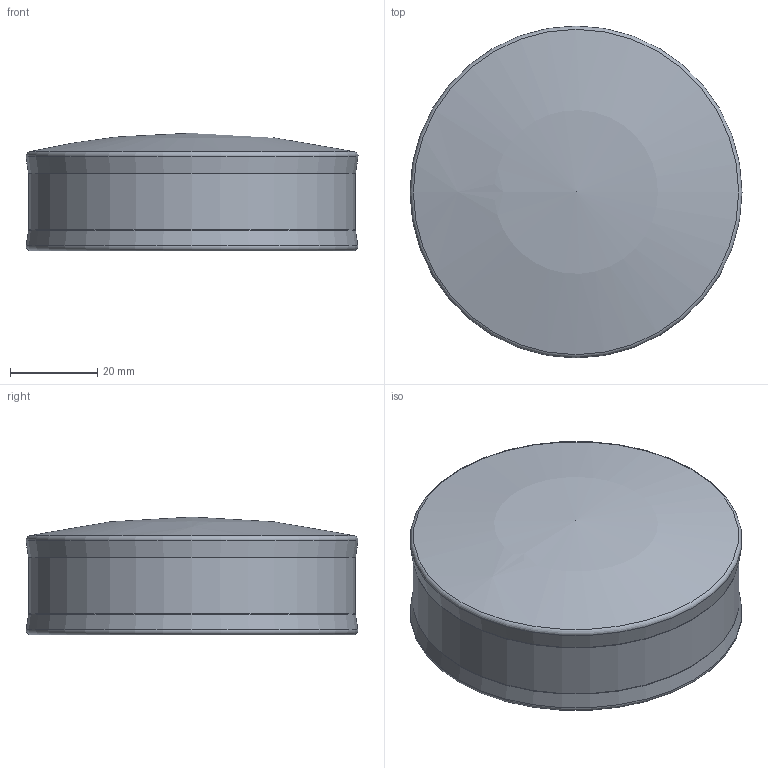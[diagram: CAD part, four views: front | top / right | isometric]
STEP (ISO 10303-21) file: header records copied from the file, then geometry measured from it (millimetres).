
FILE_DESCRIPTION(('STEP AP214'), '1');
FILE_NAME('扻錝魛', '', ('UNSPECIFIED'), ('UNSPECIFIED'), 'C3D Converter', 'C3D Toolkit', '');
FILE_SCHEMA(('AUTOMOTIVE_DESIGN { 1 0 10303 214 3 1 1}'));
Length unit declared in the file: millimetre
Bounding box: 76.14 x 76.14 x 27 mm (x, y, z)
Volume: 27220.4 mm3; surface area: 18713.4 mm2
Topology: 1 solids, 1 shells, 13 faces, 26 edges, 14 vertices
Faces by surface type: torus 8, cylinder 2, sphere 2, plane 1
Full cylindrical faces by diameter (mm): 69 x1, 75 x1
Entity records: 398 total; most frequent: DIRECTION 52, CARTESIAN_POINT 38, AXIS2_PLACEMENT_3D 26, EDGE_LOOP 24, ORIENTED_EDGE 24, FACE_OUTER_BOUND 22, COLOUR_RGB 14, FILL_AREA_STYLE_COLOUR 14
